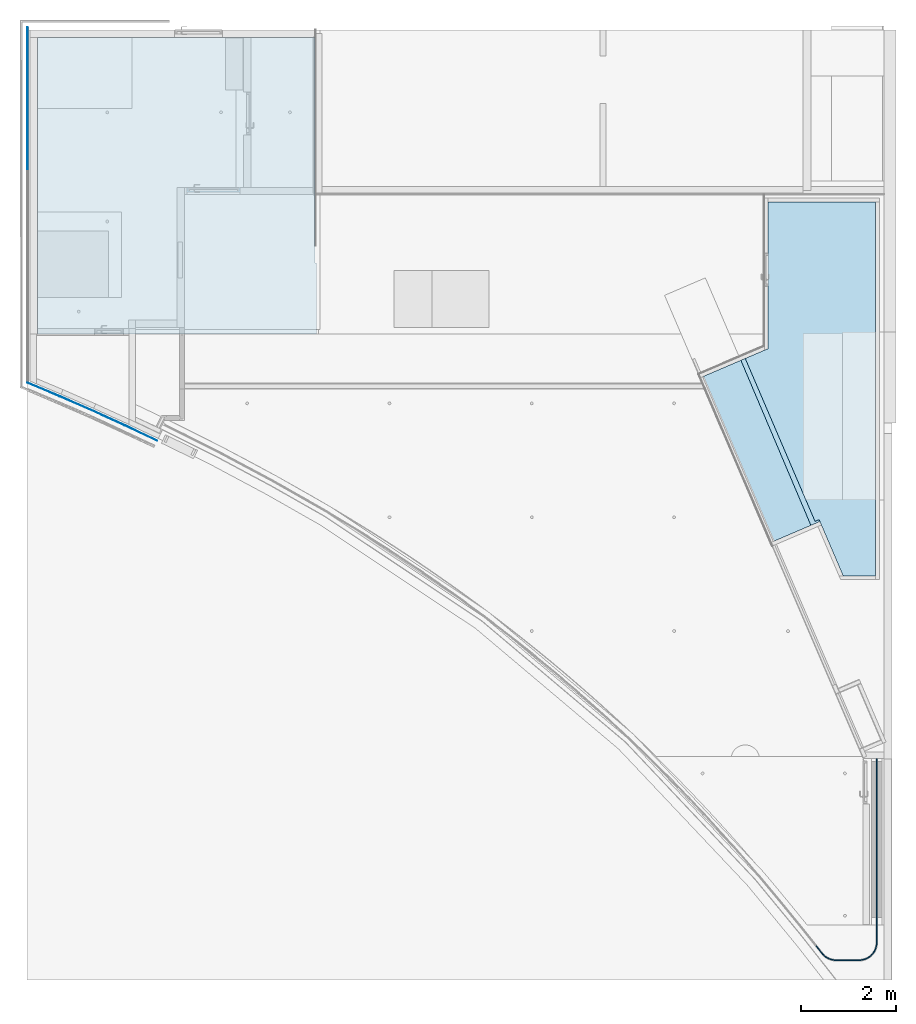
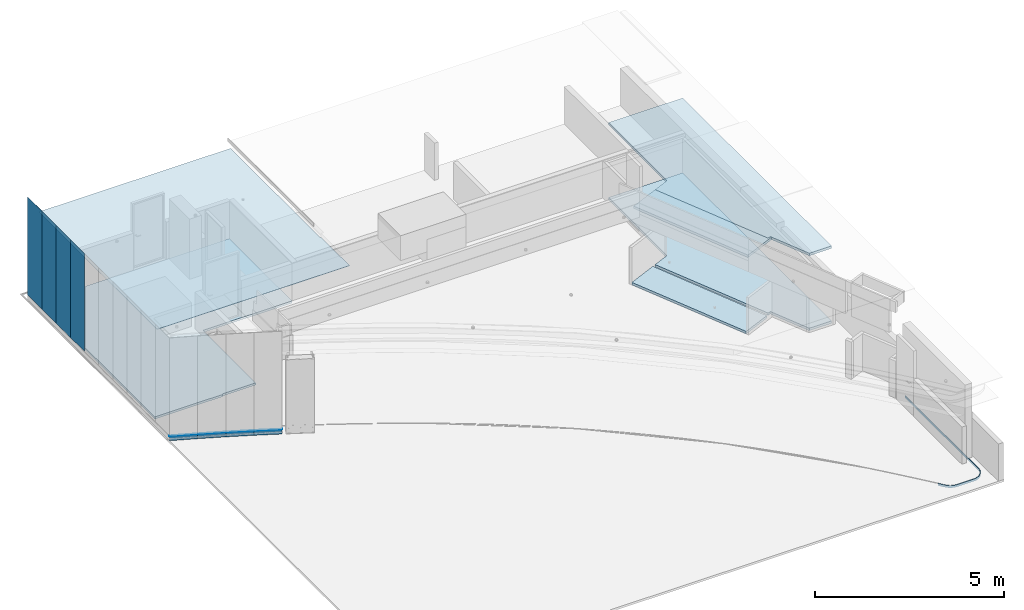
# One storey, part 2 of 16: 12 plates, 7 slabs, 5 elements without a shape of their own.
"""IFC2X3 building model written with IfcOpenShell, lengths in millimetres."""

from ifc_helpers import new_model, entity, si_unit, converted_unit, derived_unit, direction, frame, frame_2d, origin, origin_with_axes, origin_2d_with_axis, place, context, subcontext, project, spatial, polyline, circle_curve, parameter, trimmed, segment, composite_curve, rectangle, outline, extrude, source, transform, mapped, material, layer, layer_set, layer_usage, type_object, element, aggregate, save


model = new_model("IFC2X3")

# Units and contexts
model_context = context("Model", 3, precision=0.01, world=frame((0.0, 4.29681676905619e-09, 0.0)), true_north=direction((4.01073788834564e-13, 1.0)))
plan_context = context("Plan", 3, precision=0.01, world=frame((0.0, 4.29681676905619e-09, 0.0)), true_north=direction((4.01073788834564e-13, 1.0)))
body_context = subcontext(model_context, "Body", "Model", "MODEL_VIEW")
ifc_project = project(units=[converted_unit("PLANEANGLEUNIT", "DEGREE", entity("IfcPositiveLengthMeasure", 0.0174532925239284), si_unit("PLANEANGLEUNIT", "RADIAN"), dimensions=[0, 0, 0, 0, 0, 0, 0]), si_unit("AREAUNIT", "SQUARE_METRE"), si_unit("LENGTHUNIT", "METRE", prefix="MILLI"), si_unit("MASSUNIT", "GRAM", prefix="KILO"), si_unit("POWERUNIT", "WATT"), si_unit("PRESSUREUNIT", "PASCAL"), si_unit("FORCEUNIT", "NEWTON", prefix="KILO"), si_unit("ELECTRICCURRENTUNIT", "AMPERE"), si_unit("THERMODYNAMICTEMPERATUREUNIT", "DEGREE_CELSIUS"), si_unit("TIMEUNIT", "SECOND"), si_unit("VOLUMEUNIT", "CUBIC_METRE"), derived_unit("LINEARVELOCITYUNIT", [(si_unit("LENGTHUNIT", "METRE"), 1), (si_unit("TIMEUNIT", "SECOND"), -1)]), derived_unit("VOLUMETRICFLOWRATEUNIT", [(si_unit("VOLUMEUNIT", "CUBIC_METRE"), 1), (si_unit("TIMEUNIT", "SECOND"), -1)]), derived_unit("THERMALTRANSMITTANCEUNIT", [(si_unit("POWERUNIT", "WATT"), 1), (si_unit("THERMODYNAMICTEMPERATUREUNIT", "KELVIN"), -1), (si_unit("AREAUNIT", "SQUARE_METRE"), -1)])], contexts=[model_context, plan_context])

# Site, building, storey
site_placement = place(None, origin_with_axes())
site = spatial("IfcSite", under=ifc_project, at=site_placement, Name="ENGM", CompositionType="ELEMENT")
building_placement = place(site_placement, origin_with_axes())
building = spatial("IfcBuilding", under=site, at=building_placement, Name="TS", CompositionType="ELEMENT")
storey_placement = place(building_placement, frame((0.0, 0.0, 204000.0), z_axis=(0.0, 0.0, 1.0), x_axis=(1.0, 0.0, 0.0)))
storey = spatial("IfcBuildingStorey", under=building, at=storey_placement, Name="Nivå D", CompositionType="ELEMENT", Elevation=204000.0)

# Curtain wall, plates
curtain_wall_type = type_object("IfcCurtainWallType", Name="Curtain Wall:A245 - IGK - Glass Kledning", PredefinedType="NOTDEFINED")
curtain_wall_1_placement = place(storey_placement, frame((0.0, 0.0, -204000.0), z_axis=(0.0, 0.0, 1.0), x_axis=(1.0, 0.0, 0.0)))
curtain_wall_1 = element("IfcCurtainWall", 1, at=curtain_wall_1_placement, inside=storey, type_object=curtain_wall_type, Name="Curtain Wall:A245 - IGK - Glass Kledning", ObjectType="Curtain Wall:A245 - IGK - Glass Kledning")
ifc_material_1 = material(Name="KL-G01")
plate_type_1 = type_object("IfcPlateType", Name="System Panel:A245 - KL-G01 - Veggkledning glasspanel", PredefinedType="CURTAIN_PANEL", material=ifc_material_1)
shared_shape_1 = source(origin(), body_context, "Body", "SweptSolid", [
    extrude(rectangle(XDim=10.0, YDim=749.999999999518, at=origin_2d_with_axis()), frame((0.0, -5.0, 0.0), z_axis=(0.0, 0.0, 1.0), x_axis=(0.0, 1.0, 0.0)), (0.0, 0.0, 1.0), 3159.99999999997),
])
plate_1_placement = place(curtain_wall_1_placement, frame((513862.500000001, 418305.191453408, 204160.0), z_axis=(0.0, 0.0, 1.0), x_axis=(0.0, 1.0, 0.0)))
plate_1 = element("IfcPlate", 2, at=plate_1_placement, type_object=plate_type_1, material=ifc_material_1, Name="System Panel:A245 - KL-G01 - Veggkledning glasspanel", ObjectType="System Panel:A245 - KL-G01 - Veggkledning glasspanel", context=body_context, shape_type="MappedRepresentation", body=[
    mapped(shared_shape_1, transform((0.0, 0.0, 0.0), scale=1.0)),
])
plate_2_placement = place(curtain_wall_1_placement, frame((513862.500000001, 419055.191453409, 204160.0), z_axis=(0.0, 0.0, 1.0), x_axis=(0.0, 1.0, 0.0)))
plate_2 = element("IfcPlate", 3, at=plate_2_placement, type_object=plate_type_1, material=ifc_material_1, Name="System Panel:A245 - KL-G01 - Veggkledning glasspanel", ObjectType="System Panel:A245 - KL-G01 - Veggkledning glasspanel", context=body_context, shape_type="MappedRepresentation", body=[
    mapped(shared_shape_1, transform((0.0, 0.0, 0.0), scale=1.0)),
])
plate_3_placement = place(curtain_wall_1_placement, frame((513862.500000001, 419805.191453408, 204160.0), z_axis=(0.0, 0.0, 1.0), x_axis=(0.0, 1.0, 0.0)))
plate_3 = element("IfcPlate", 4, at=plate_3_placement, type_object=plate_type_1, material=ifc_material_1, Name="System Panel:A245 - KL-G01 - Veggkledning glasspanel", ObjectType="System Panel:A245 - KL-G01 - Veggkledning glasspanel", context=body_context, shape_type="MappedRepresentation", body=[
    mapped(shared_shape_1, transform((0.0, 0.0, 0.0), scale=1.0)),
])
plate_4_placement = place(curtain_wall_1_placement, frame((513862.500000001, 420555.191453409, 204160.0), z_axis=(0.0, 0.0, 1.0), x_axis=(0.0, 1.0, 0.0)))
plate_4 = element("IfcPlate", 5, at=plate_4_placement, type_object=plate_type_1, material=ifc_material_1, Name="System Panel:A245 - KL-G01 - Veggkledning glasspanel", ObjectType="System Panel:A245 - KL-G01 - Veggkledning glasspanel", context=body_context, shape_type="MappedRepresentation", body=[
    mapped(shared_shape_1, transform((0.0, 0.0, 0.0), scale=1.0)),
])
aggregate(curtain_wall_1, [plate_1, plate_2, plate_3, plate_4])

# Curtain wall, plate
curtain_wall_2_placement = place(storey_placement, frame((0.0, 0.0, -204000.0), z_axis=(0.0, 0.0, 1.0), x_axis=(1.0, 0.0, 0.0)))
curtain_wall_2 = element("IfcCurtainWall", 6, at=curtain_wall_2_placement, inside=storey, type_object=curtain_wall_type, Name="Curtain Wall:A245 - IGK - Glass Kledning", ObjectType="Curtain Wall:A245 - IGK - Glass Kledning")
ifc_material_2 = material(Name="_NSW Stål, rustfritt")
plate_type_2 = type_object("IfcPlateType", Name="System Panel:A245 - KL-S01 - Veggkledning metallplate sokkel - IGK - 10mm", PredefinedType="CURTAIN_PANEL", material=ifc_material_2)
shared_shape_2 = source(origin(), body_context, "Body", "SweptSolid", [
    extrude(rectangle(XDim=10.0, YDim=749.999999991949, at=frame_2d((0.0, -1.35855771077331e-11), x_axis=(1.0, 0.0))), frame((0.0, -5.0, 0.0), z_axis=(0.0, 0.0, 1.0), x_axis=(0.0, 1.0, 0.0)), (0.0, 0.0, 1.0), 150.000000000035),
])
plate_5_placement = place(curtain_wall_2_placement, frame((514208.385746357, 413285.318921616, 204000.0), z_axis=(0.0, 0.0, 1.0), x_axis=(-0.922361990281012, 0.386326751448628, 0.0)))
plate_5 = element("IfcPlate", 7, at=plate_5_placement, type_object=plate_type_2, material=ifc_material_2, Name="System Panel:A245 - KL-S01 - Veggkledning metallplate sokkel - IGK - 10mm", ObjectType="System Panel:A245 - KL-S01 - Veggkledning metallplate sokkel - IGK - 10mm", context=body_context, shape_type="MappedRepresentation", body=[
    mapped(shared_shape_2, transform((0.0, 0.0, 0.0), scale=1.0)),
])

curtain_wall_3_placement = place(storey_placement, frame((0.0, 0.0, -204000.0), z_axis=(0.0, 0.0, 1.0), x_axis=(1.0, 0.0, 0.0)))
curtain_wall_3 = element("IfcCurtainWall", 8, at=curtain_wall_3_placement, inside=storey, type_object=curtain_wall_type, Name="Curtain Wall:A245 - IGK - Glass Kledning", ObjectType="Curtain Wall:A245 - IGK - Glass Kledning")
plate_6_placement = place(curtain_wall_3_placement, frame((514897.737512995, 412989.926979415, 204000.0), z_axis=(0.0, 0.0, 1.0), x_axis=(-0.915909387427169, 0.401385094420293, 0.0)))
plate_6 = element("IfcPlate", 9, at=plate_6_placement, type_object=plate_type_2, material=ifc_material_2, Name="System Panel:A245 - KL-S01 - Veggkledning metallplate sokkel - IGK - 10mm", ObjectType="System Panel:A245 - KL-S01 - Veggkledning metallplate sokkel - IGK - 10mm", context=body_context, shape_type="MappedRepresentation", body=[
    mapped(shared_shape_2, transform((0.0, 0.0, 0.0), scale=1.0)),
])

curtain_wall_4_placement = place(storey_placement, frame((0.0, 0.0, -204000.0), z_axis=(0.0, 0.0, 1.0), x_axis=(1.0, 0.0, 0.0)))
curtain_wall_4 = element("IfcCurtainWall", 10, at=curtain_wall_4_placement, inside=storey, type_object=curtain_wall_type, Name="Curtain Wall:A245 - IGK - Glass Kledning", ObjectType="Curtain Wall:A245 - IGK - Glass Kledning")
plate_7_placement = place(curtain_wall_4_placement, frame((515582.503946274, 412684.040171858, 204000.0), z_axis=(0.0, 0.0, 1.0), x_axis=(-0.910134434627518, 0.414313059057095, 0.0)))
plate_7 = element("IfcPlate", 11, at=plate_7_placement, type_object=plate_type_2, material=ifc_material_2, Name="System Panel:A245 - KL-S01 - Veggkledning metallplate sokkel - IGK - 10mm", ObjectType="System Panel:A245 - KL-S01 - Veggkledning metallplate sokkel - IGK - 10mm", context=body_context, shape_type="MappedRepresentation", body=[
    mapped(shared_shape_2, transform((0.0, 0.0, 0.0), scale=1.0)),
])

curtain_wall_5_placement = place(storey_placement, frame((0.0, 0.0, -204000.0), z_axis=(0.0, 0.0, 1.0), x_axis=(1.0, 0.0, 0.0)))
curtain_wall_5 = element("IfcCurtainWall", 12, at=curtain_wall_5_placement, inside=storey, type_object=curtain_wall_type, Name="Curtain Wall:A245 - IGK - Glass Kledning", ObjectType="Curtain Wall:A245 - IGK - Glass Kledning")
plate_8_placement = place(curtain_wall_5_placement, frame((516262.492602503, 412367.69055865, 204000.0), z_axis=(0.0, 0.0, 1.0), x_axis=(-0.903168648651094, 0.42928590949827, 0.0)))
plate_8 = element("IfcPlate", 13, at=plate_8_placement, type_object=plate_type_2, material=ifc_material_2, Name="System Panel:A245 - KL-S01 - Veggkledning metallplate sokkel - IGK - 10mm", ObjectType="System Panel:A245 - KL-S01 - Veggkledning metallplate sokkel - IGK - 10mm", context=body_context, shape_type="MappedRepresentation", body=[
    mapped(shared_shape_2, transform((0.0, 0.0, 0.0), scale=1.0)),
])

# Plate
plate_type_3 = type_object("IfcPlateType", Name="System Panel:A245 - KL-S01 - Veggkledning metallplate sokkel - IGK - 10mm", PredefinedType="CURTAIN_PANEL", material=ifc_material_2)
shared_shape_3 = source(origin(), body_context, "Body", "SweptSolid", [
    extrude(rectangle(XDim=10.0, YDim=749.999999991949, at=frame_2d((0.0, -1.35855771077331e-11), x_axis=(1.0, 0.0))), frame((0.0, -5.0, 0.0), z_axis=(0.0, 0.0, 1.0), x_axis=(0.0, 1.0, 0.0)), (0.0, 0.0, 1.0), 9.99999999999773),
])
plate_9_placement = place(curtain_wall_2_placement, frame((514208.385746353, 413285.318921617, 204150.0), z_axis=(0.0, 0.0, 1.0), x_axis=(-0.922361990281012, 0.386326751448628, 0.0)))
plate_9 = element("IfcPlate", 14, at=plate_9_placement, type_object=plate_type_3, material=ifc_material_2, Name="System Panel:A245 - KL-S01 - Veggkledning metallplate sokkel - IGK - 10mm", ObjectType="System Panel:A245 - KL-S01 - Veggkledning metallplate sokkel - IGK - 10mm", context=body_context, shape_type="MappedRepresentation", body=[
    mapped(shared_shape_3, transform((0.0, 0.0, 0.0), scale=1.0)),
])

aggregate(curtain_wall_2, [plate_5, plate_9])

plate_10_placement = place(curtain_wall_3_placement, frame((514897.737512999, 412989.926979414, 204150.0), z_axis=(0.0, 0.0, 1.0), x_axis=(-0.915909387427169, 0.401385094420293, 0.0)))
plate_10 = element("IfcPlate", 15, at=plate_10_placement, type_object=plate_type_3, material=ifc_material_2, Name="System Panel:A245 - KL-S01 - Veggkledning metallplate sokkel - IGK - 10mm", ObjectType="System Panel:A245 - KL-S01 - Veggkledning metallplate sokkel - IGK - 10mm", context=body_context, shape_type="MappedRepresentation", body=[
    mapped(shared_shape_3, transform((0.0, 0.0, 0.0), scale=1.0)),
])

aggregate(curtain_wall_3, [plate_6, plate_10])

plate_11_placement = place(curtain_wall_4_placement, frame((515582.503946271, 412684.040171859, 204150.0), z_axis=(0.0, 0.0, 1.0), x_axis=(-0.910134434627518, 0.414313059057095, 0.0)))
plate_11 = element("IfcPlate", 16, at=plate_11_placement, type_object=plate_type_3, material=ifc_material_2, Name="System Panel:A245 - KL-S01 - Veggkledning metallplate sokkel - IGK - 10mm", ObjectType="System Panel:A245 - KL-S01 - Veggkledning metallplate sokkel - IGK - 10mm", context=body_context, shape_type="MappedRepresentation", body=[
    mapped(shared_shape_3, transform((0.0, 0.0, 0.0), scale=1.0)),
])

aggregate(curtain_wall_4, [plate_7, plate_11])

plate_12_placement = place(curtain_wall_5_placement, frame((516262.492602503, 412367.69055865, 204150.0), z_axis=(0.0, 0.0, 1.0), x_axis=(-0.903168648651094, 0.42928590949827, 0.0)))
plate_12 = element("IfcPlate", 17, at=plate_12_placement, type_object=plate_type_3, material=ifc_material_2, Name="System Panel:A245 - KL-S01 - Veggkledning metallplate sokkel - IGK - 10mm", ObjectType="System Panel:A245 - KL-S01 - Veggkledning metallplate sokkel - IGK - 10mm", context=body_context, shape_type="MappedRepresentation", body=[
    mapped(shared_shape_3, transform((0.0, 0.0, 0.0), scale=1.0)),
])

aggregate(curtain_wall_5, [plate_8, plate_12])

# Slabs
ifc_material_3 = material(Name="_NSW Gulv (Generell)")
ifc_layer_1 = layer(ifc_material_3, 70.0)
ifc_layer_set_1 = layer_set([ifc_layer_1], Name="Floor:A254 - Gulvoppbygging m_f.o - 70 mm")
ifc_layer_usage_1 = layer_usage(ifc_layer_set_1, "AXIS3", "POSITIVE", 0.0)
slab_type_1 = type_object("IfcSlabType", Name="Floor:A254 - Gulvoppbygging m_f.o - 70 mm", PredefinedType="FLOOR", material=ifc_layer_set_1)
slab_1_placement = place(storey_placement, frame((516758.588893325, 401254.749999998, -70.0), z_axis=(0.0, 0.0, 1.0), x_axis=(1.0, 0.0, 0.0)))
element("IfcSlab", 18, at=slab_1_placement, inside=storey, type_object=slab_type_1, material=ifc_layer_usage_1, Name="Floor:A254 - Gulvoppbygging m_f.o - 70 mm:8", ObjectType="Floor:A254 - Gulvoppbygging m_f.o - 70 mm", PredefinedType="FLOOR", context=body_context, shape_type="SweptSolid", body=[
    extrude(outline(composite_curve([segment(polyline([(-6216.96969280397, -5343.82427975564), (-6231.84289380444, -5332.00108678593)]), True, "CONTINUOUS"), segment(trimmed(circle_curve(frame_2d((46018.886419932, -46867.8114006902), x_axis=(-1.0, 0.0)), 66748.5), [parameter(321.517665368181)], [parameter(321.600258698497)], True, "PARAMETER"), True, "CONTINUOUS"), segment(polyline([(-6291.66351664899, -5407.36497783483), (-6372.67230598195, -5509.57358110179)]), True, "CONTINUOUS"), segment(trimmed(circle_curve(frame_2d((-6641.95555333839, -5268.39152809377), x_axis=(-1.0, 0.0)), 361.5), [parameter(90.0000000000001)], [parameter(138.150961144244)], True, "PARAMETER"), False, "CONTINUOUS"), segment(polyline([(-6641.95555333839, -5629.89152809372), (-7129.95555333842, -5629.89152809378)]), True, "CONTINUOUS"), segment(trimmed(circle_curve(frame_2d((-7129.95555333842, -5268.39152809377), x_axis=(-1.0, 0.0)), 361.5), [parameter(0.0)], [parameter(90.0000000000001)], True, "PARAMETER"), False, "CONTINUOUS"), segment(polyline([(-7491.45555333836, -5268.39152809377), (-7491.45555333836, -1392.39152809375)]), True, "CONTINUOUS"), segment(polyline([(-7491.45555333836, -1392.39152809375), (-7510.45555333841, -1392.39152809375)]), True, "CONTINUOUS"), segment(polyline([(-7510.45555333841, -1392.39152809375), (-7510.45555333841, -5268.39152809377)]), True, "CONTINUOUS"), segment(trimmed(circle_curve(frame_2d((-7129.95555333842, -5268.39152809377), x_axis=(-1.0, 0.0)), 380.5), [parameter(0.0)], [parameter(90.0000000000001)], True, "PARAMETER"), True, "CONTINUOUS"), segment(polyline([(-7129.95555333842, -5648.89152809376), (-6641.95555333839, -5648.89152809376)]), True, "CONTINUOUS"), segment(trimmed(circle_curve(frame_2d((-6641.95555333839, -5268.39152809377), x_axis=(-1.0, 0.0)), 380.5), [parameter(90.0000000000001)], [parameter(138.238208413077)], True, "PARAMETER"), True, "CONTINUOUS"), segment(polyline([(-6358.13287177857, -5521.81791865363), (-6276.77328766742, -5419.1667184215)]), True, "CONTINUOUS"), segment(trimmed(circle_curve(frame_2d((46018.886419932, -46867.8114006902), x_axis=(-1.0, 0.0)), 66729.5), [parameter(321.517665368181)], [parameter(321.600258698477)], True, "PARAMETER"), False, "CONTINUOUS")], self_intersect=False)), frame((7510.45555333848, 5648.89152809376, 70.0), z_axis=(0.0, 0.0, -1.0), x_axis=(-1.0, 0.0, 0.0)), (0.0, 0.0, 1.0), 69.9999999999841),
])
ifc_material_4 = material(Name="_NSW Isolasjon trykkfast")
ifc_layer_2 = layer(ifc_material_4, 80.0)
ifc_layer_set_2 = layer_set([ifc_layer_2], Name="Floor:A251 - Trykkfast isolasjon - 80 mm")
ifc_layer_usage_2 = layer_usage(ifc_layer_set_2, "AXIS3", "POSITIVE", 0.0)
slab_type_2 = type_object("IfcSlabType", Name="Floor:A251 - Trykkfast isolasjon - 80 mm", PredefinedType="FLOOR", material=ifc_layer_set_2)
slab_2_placement = place(storey_placement, origin_with_axes())
element("IfcSlab", 19, at=slab_2_placement, inside=storey, type_object=slab_type_2, material=ifc_layer_usage_2, Name="Floor:A251 - Trykkfast isolasjon - 80 mm", ObjectType="Floor:A251 - Trykkfast isolasjon - 80 mm", PredefinedType="FLOOR", context=body_context, shape_type="SweptSolid", body=[
    extrude(outline(polyline([(-1302.99711986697, -3433.69718728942), (-620.92272187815, -3433.69718728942), (-112.920025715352, -2248.43735748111), (-28.4208394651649, -2284.65375496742), (1443.5462938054, 1149.70287852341), (962.355766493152, 1355.94140196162), (962.355766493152, 4447.42060327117), (-1302.99711986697, 4447.42060327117), (-1302.99711986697, -3433.69718728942)])), frame((530442.355766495, 412797.57429029, 80.0), z_axis=(0.0, 0.0, -1.0), x_axis=(-1.0, 0.0, 0.0)), (0.0, 0.0, 1.0), 80.0000000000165),
])
ifc_layer_usage_3 = layer_usage(ifc_layer_set_2, "AXIS3", "POSITIVE", 0.0)
slab_3_placement = place(storey_placement, origin_with_axes())
element("IfcSlab", 20, at=slab_3_placement, inside=storey, type_object=slab_type_2, material=ifc_layer_usage_3, Name="Floor:A251 - Trykkfast isolasjon - 80 mm", ObjectType="Floor:A251 - Trykkfast isolasjon - 80 mm", PredefinedType="FLOOR", context=body_context, shape_type="SweptSolid", body=[
    extrude(outline(polyline([(-1302.96567909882, -3433.70807827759), (-620.891281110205, -3433.70807827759), (-113.140111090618, -2248.36112056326), (-28.3893986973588, -2284.66464595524), (1443.57773457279, 1149.69198753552), (962.387207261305, 1355.93051097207), (962.387207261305, 4447.40971228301), (-1302.96567909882, 4447.40971228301), (-1302.96567909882, -3433.70807827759)])), frame((530442.387207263, 412797.585181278, 2500.0), z_axis=(0.0, 0.0, -1.0), x_axis=(-1.0, 0.0, 0.0)), (0.0, 0.0, 1.0), 80.0000000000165),
])
ifc_layer_usage_4 = layer_usage(ifc_layer_set_2, "AXIS3", "POSITIVE", 0.0)
slab_4_placement = place(storey_placement, origin_with_axes())
element("IfcSlab", 21, at=slab_4_placement, inside=storey, type_object=slab_type_2, material=ifc_layer_usage_4, Name="Floor:A251 - Trykkfast isolasjon - 80 mm", ObjectType="Floor:A251 - Trykkfast isolasjon - 80 mm", PredefinedType="FLOOR", context=body_context, shape_type="SweptSolid", body=[
    extrude(outline(polyline([(-2505.48495512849, 285.014909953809), (-2505.48495512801, -661.963019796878), (1274.46181747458, -661.963019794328), (1274.46181747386, 376.948109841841), (1231.02313765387, 376.94810984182), (1231.02313765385, 285.014909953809), (-2505.48495512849, 285.014909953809)])), frame((529723.857724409, 411532.118086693, 2500.0), z_axis=(0.0, 0.0, 1.0), x_axis=(0.393941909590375, -0.919135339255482, 0.0)), (0.0, 0.0, -1.0), 80.0000000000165),
])
ifc_layer_usage_5 = layer_usage(ifc_layer_set_2, "AXIS3", "POSITIVE", 0.0)
slab_5_placement = place(storey_placement, origin_with_axes())
element("IfcSlab", 22, at=slab_5_placement, inside=storey, type_object=slab_type_2, material=ifc_layer_usage_5, Name="Floor:A251 - Trykkfast isolasjon - 80 mm", ObjectType="Floor:A251 - Trykkfast isolasjon - 80 mm", PredefinedType="FLOOR", context=body_context, shape_type="SweptSolid", body=[
    extrude(outline(polyline([(-1891.72137891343, -459.921765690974), (1888.25227563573, -459.921765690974), (1891.69449706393, 452.793959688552), (-1888.2253937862, 467.049571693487), (-1891.72137891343, -459.921765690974)])), frame((529222.150844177, 411986.749939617, 80.0), z_axis=(0.0, 0.0, -1.0), x_axis=(0.390472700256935, -0.920614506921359, 0.0)), (0.0, 0.0, 1.0), 80.0000000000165),
])
ifc_material_5 = material(Name="T2 - Gulvgips")
ifc_layer_3 = layer(ifc_material_5, 13.0)
ifc_layer_set_3 = layer_set([ifc_layer_3], Name="Floor:A254 - Gulvgips - 13 mm")
ifc_layer_usage_6 = layer_usage(ifc_layer_set_3, "AXIS3", "POSITIVE", 0.0)
slab_type_3 = type_object("IfcSlabType", Name="Floor:A254 - Gulvgips - 13 mm", PredefinedType="FLOOR", material=ifc_layer_set_3)
slab_6_placement = place(storey_placement, origin_with_axes())
element("IfcSlab", 23, at=slab_6_placement, inside=storey, type_object=slab_type_3, material=ifc_layer_usage_6, Name="Floor:A254 - Gulvgips - 13 mm", ObjectType="Floor:A254 - Gulvgips - 13 mm", PredefinedType="FLOOR", context=body_context, shape_type="SweptSolid", body=[
    extrude(outline(polyline([(-2585.73048438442, -3913.33333333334), (3670.46096889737, -3913.33333333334), (3670.46096889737, 1944.16666666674), (-1084.73048451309, 1944.16666666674), (-1084.73048451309, 1969.16666666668), (-2585.73048438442, 1969.16666666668), (-2585.73048438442, -3913.33333333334)])), frame((517990.833333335, 417044.730484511, 2903.0), z_axis=(0.0, 0.0, -1.0), x_axis=(0.0, 1.0, 0.0)), (0.0, 0.0, 1.0), 13.0000000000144),
])
ifc_material_6 = material(Name="T2 - Dekke uten skravur")
ifc_layer_4 = layer(ifc_material_6, 70.0)
ifc_layer_set_4 = layer_set([ifc_layer_4], Name="Floor:A254  - Gulvoppbygging m_f.o - 70mm - stein")
ifc_layer_usage_7 = layer_usage(ifc_layer_set_4, "AXIS3", "POSITIVE", 0.0)
slab_type_4 = type_object("IfcSlabType", Name="Floor:A254  - Gulvoppbygging m_f.o - 70mm - stein", PredefinedType="FLOOR", material=ifc_layer_set_4)
slab_7_placement = place(storey_placement, origin_with_axes())
element("IfcSlab", 24, at=slab_7_placement, inside=storey, type_object=slab_type_4, material=ifc_layer_usage_7, Name="Floor:A254  - Gulvoppbygging m_f.o - 70mm - stein", ObjectType="Floor:A254  - Gulvoppbygging m_f.o - 70mm - stein", PredefinedType="FLOOR", context=body_context, shape_type="SweptSolid", body=[
    extrude(outline(polyline([(-2245.67286338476, -2748.0), (3892.01859002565, -2748.0), (3892.01859002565, 3072.0), (574.327136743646, 3072.0), (574.327136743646, 352.0), (-2220.67286338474, 352.0), (-2220.67286338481, -676.0), (-2245.67286338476, -676.0), (-2245.67286338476, -2748.0)])), frame((516825.500000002, 416823.172863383, 0.0), z_axis=(0.0, 0.0, -1.0), x_axis=(0.0, 1.0, 0.0)), (0.0, 0.0, 1.0), 69.9999999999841),
])

save(model, "model.ifc")
